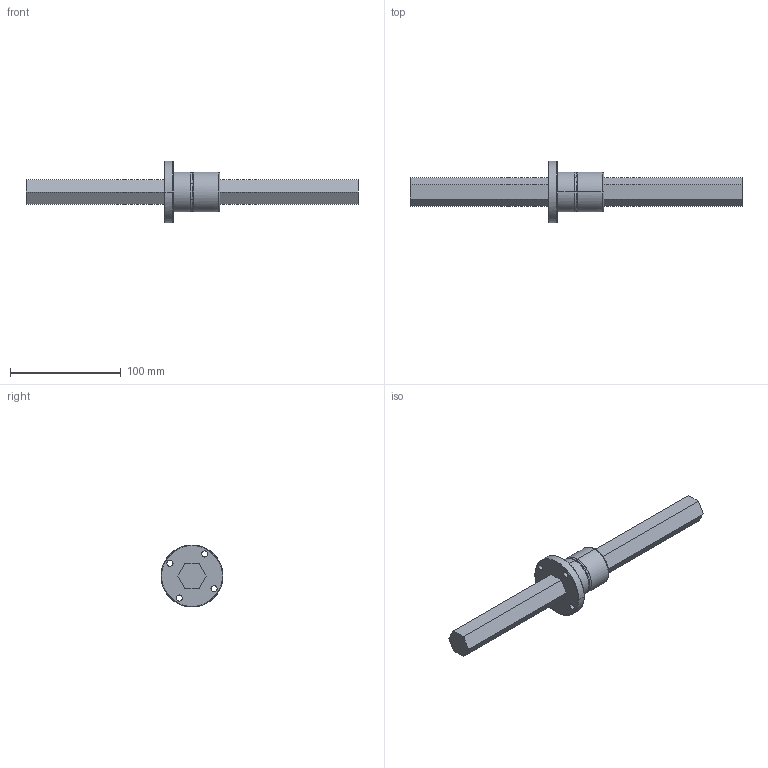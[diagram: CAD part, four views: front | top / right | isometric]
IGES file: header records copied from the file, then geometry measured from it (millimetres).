
Global section: file name: No Iges File Name specified; native system: AutoDesk Inventor R10; preprocessor: AutoDesk Inventor Iges Exporter R10; author: No Author specified; organization: No Organization specified; date: 20101224.162513; units: millimetre
Bounding box: 300 x 56 x 56 mm (x, y, z)
Surface area: 38243.1 mm2 (no closed solid volume)
Topology: 0 solids, 0 shells, 55 faces, 384 edges, 384 vertices
Faces by surface type: bspline 55
